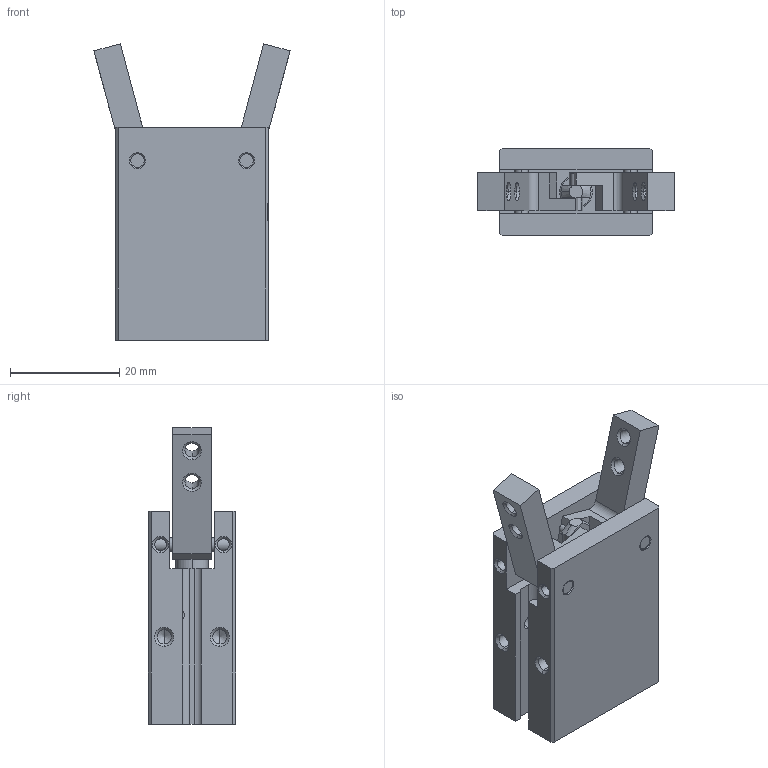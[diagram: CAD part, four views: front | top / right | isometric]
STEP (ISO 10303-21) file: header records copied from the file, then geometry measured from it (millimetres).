
FILE_DESCRIPTION (( 'STEP AP214' ), '1' );
FILE_NAME ('MCHA-12.STEP', '2013-10-22T20:45:00', ( 'user' ), ( '' ), 'SwSTEP 2.0', 'SolidWorks 2009', '' );
FILE_SCHEMA (( 'AUTOMOTIVE_DESIGN' ));
Length unit declared in the file: millimetre
Products named in the file (1): MCHA-12
Bounding box: 35.96 x 16 x 54.31 mm (x, y, z)
Volume: 14682.5 mm3; surface area: 8183.8 mm2
Topology: 1 solids, 6 shells, 245 faces, 598 edges, 365 vertices
Faces by surface type: cylinder 98, plane 74, cone 73
Entity records: 7408 total; most frequent: CARTESIAN_POINT 1591, DIRECTION 1261, ORIENTED_EDGE 1156, EDGE_CURVE 578, AXIS2_PLACEMENT_3D 467, VERTEX_POINT 365, VECTOR 327, LINE 327
